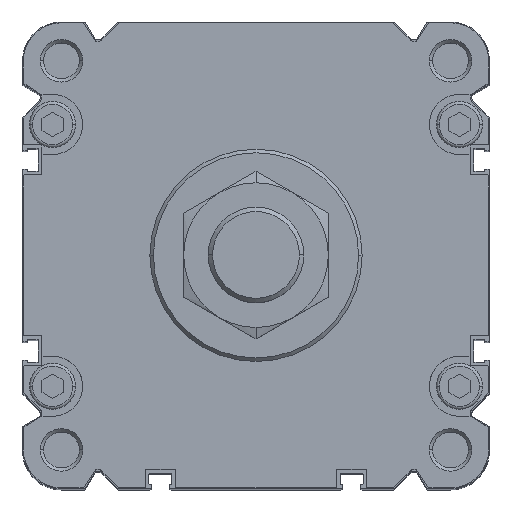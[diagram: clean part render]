
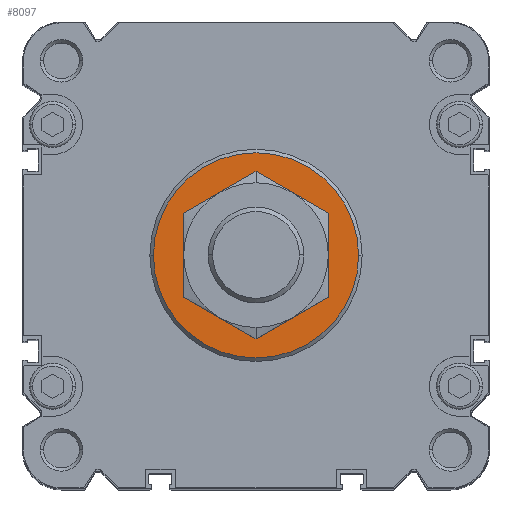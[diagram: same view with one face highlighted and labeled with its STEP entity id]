
A CAD part, top view. The second image highlights one B-rep face of the part: STEP entity #8097.
In plain terms, the highlighted planar face has unit normal (0, 0, 1).
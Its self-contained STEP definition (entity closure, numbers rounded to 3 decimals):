
#2223 = AXIS2_PLACEMENT_3D ( 'NONE', #18986, #17591, #10389 ) ;
#3023 = DIRECTION ( 'NONE',  ( 0., 0., -1. ) ) ;
#3219 = EDGE_LOOP ( 'NONE', ( #15298, #6126 ) ) ;
#3542 = EDGE_CURVE ( 'NONE', #4514, #16358, #21474, .T. ) ;
#4514 = VERTEX_POINT ( 'NONE', #18558 ) ;
#4535 = CARTESIAN_POINT ( 'NONE',  ( -29., 0., 4. ) ) ;
#4935 = CIRCLE ( 'NONE', #15311, 16. ) ;
#4993 = CARTESIAN_POINT ( 'NONE',  ( 0., 0., 4. ) ) ;
#5216 = DIRECTION ( 'NONE',  ( 0., 0., -1. ) ) ;
#5836 = DIRECTION ( 'NONE',  ( 0., 0., -1. ) ) ;
#6126 = ORIENTED_EDGE ( 'NONE', *, *, #3542, .T. ) ;
#6263 = EDGE_LOOP ( 'NONE', ( #21815, #14717 ) ) ;
#6662 = CARTESIAN_POINT ( 'NONE',  ( 0., 0., 4. ) ) ;
#8046 = DIRECTION ( 'NONE',  ( 1., 0., 0. ) ) ;
#8097 = ADVANCED_FACE ( 'NONE', ( #12023, #20974 ), #21082, .T. ) ;
#8411 = AXIS2_PLACEMENT_3D ( 'NONE', #14307, #5836, #12901 ) ;
#8491 = AXIS2_PLACEMENT_3D ( 'NONE', #4993, #5216, #10545 ) ;
#8595 = EDGE_CURVE ( 'NONE', #20541, #18925, #10256, .T. ) ;
#10256 = CIRCLE ( 'NONE', #8411, 29. ) ;
#10389 = DIRECTION ( 'NONE',  ( -1., 0., 0. ) ) ;
#10412 = AXIS2_PLACEMENT_3D ( 'NONE', #6662, #13851, #8046 ) ;
#10545 = DIRECTION ( 'NONE',  ( 1., 0., 0. ) ) ;
#11094 = EDGE_CURVE ( 'NONE', #16358, #4514, #4935, .T. ) ;
#11722 = DIRECTION ( 'NONE',  ( 1., 0., 0. ) ) ;
#12023 = FACE_OUTER_BOUND ( 'NONE', #6263, .T. ) ;
#12901 = DIRECTION ( 'NONE',  ( 1., 0., 0. ) ) ;
#13851 = DIRECTION ( 'NONE',  ( 0., 0., -1. ) ) ;
#14307 = CARTESIAN_POINT ( 'NONE',  ( 0., 0., 4. ) ) ;
#14717 = ORIENTED_EDGE ( 'NONE', *, *, #8595, .F. ) ;
#15298 = ORIENTED_EDGE ( 'NONE', *, *, #11094, .T. ) ;
#15311 = AXIS2_PLACEMENT_3D ( 'NONE', #15543, #3023, #11722 ) ;
#15543 = CARTESIAN_POINT ( 'NONE',  ( 0., 0., 4. ) ) ;
#16358 = VERTEX_POINT ( 'NONE', #18227 ) ;
#16722 = CIRCLE ( 'NONE', #10412, 29. ) ;
#17193 = EDGE_CURVE ( 'NONE', #18925, #20541, #16722, .T. ) ;
#17591 = DIRECTION ( 'NONE',  ( 0., 0., 1. ) ) ;
#17741 = CARTESIAN_POINT ( 'NONE',  ( 29., 0., 4. ) ) ;
#18227 = CARTESIAN_POINT ( 'NONE',  ( 16., 0., 4. ) ) ;
#18558 = CARTESIAN_POINT ( 'NONE',  ( -16., 0., 4. ) ) ;
#18925 = VERTEX_POINT ( 'NONE', #17741 ) ;
#18986 = CARTESIAN_POINT ( 'NONE',  ( 0., -29., 4. ) ) ;
#20541 = VERTEX_POINT ( 'NONE', #4535 ) ;
#20974 = FACE_BOUND ( 'NONE', #3219, .T. ) ;
#21082 = PLANE ( 'NONE',  #2223 ) ;
#21474 = CIRCLE ( 'NONE', #8491, 16. ) ;
#21815 = ORIENTED_EDGE ( 'NONE', *, *, #17193, .F. ) ;
